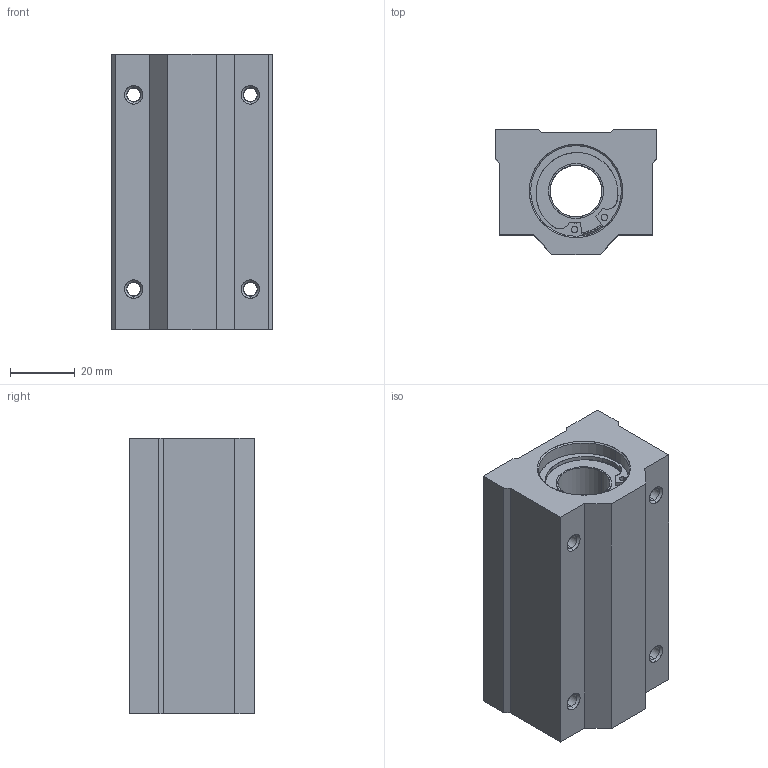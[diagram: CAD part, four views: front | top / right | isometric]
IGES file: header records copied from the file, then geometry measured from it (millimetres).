
Start section: SolidWorks IGES file using analytic representation for surfaces
Global section: file name: D:\SOLIDWORKS PROEKTI\freelance cnc cat\VTORA SERIJA\SC-LUU\SC16LUU.IGS; native system: SolidWorks 2016; preprocessor: SolidWorks 2016; author: User; date: 170806.102341; units: millimetre
Bounding box: 50 x 38.5 x 85 mm (x, y, z)
Surface area: 39418.2 mm2 (no closed solid volume)
Topology: 0 solids, 0 shells, 446 faces, 11130 edges, 13452 vertices
Faces by surface type: bspline 296, revolution 150
